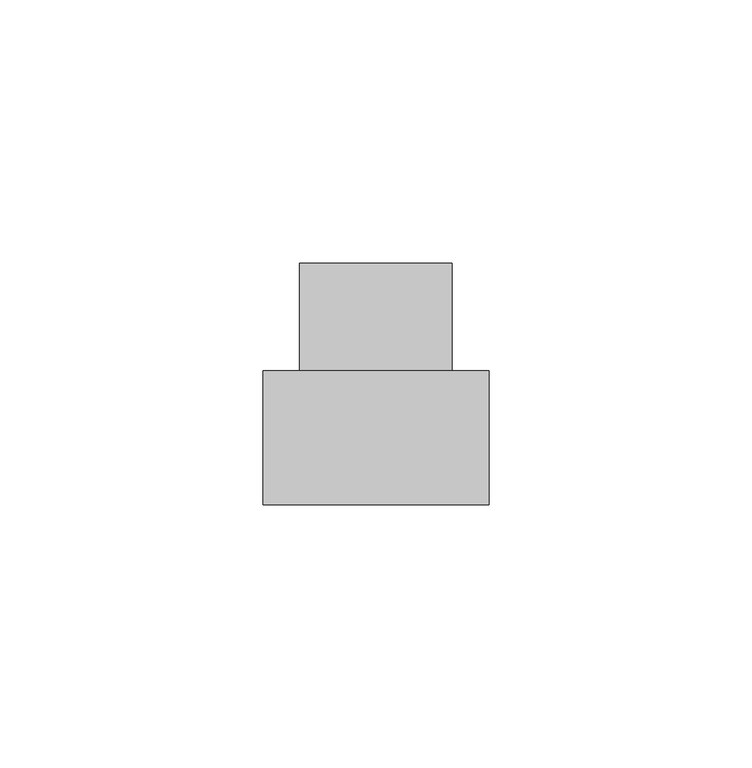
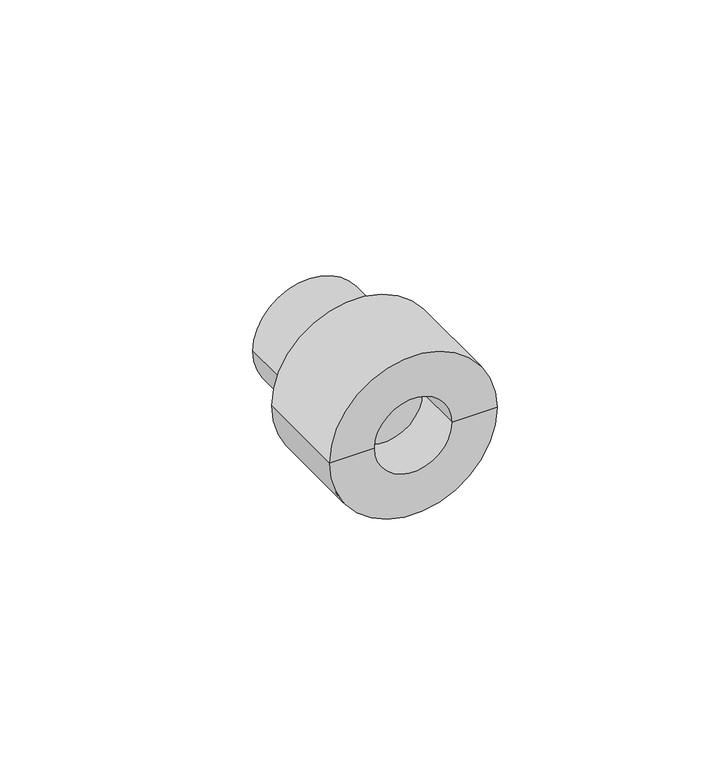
"""IFC4 building model written with IfcOpenShell, lengths in millimetres: pipe fitting geometry, NIRON RED termofusion roscado enlace rosca hembra : Estándar."""

import ifcopenshell
import ifcopenshell.guid

model = None  # the IFC model being written
_history = None  # IfcOwnerHistory: only IFC2X3 demands one
_inside = {}  # id of a spatial element -> (the spatial element, [elements in it])
_under = {}  # id of a project, library or spatial element -> (it, [spatial elements below it])
_declared = {}  # id of a project -> (the project, [libraries it declares])
_typed = {}  # id of a type object -> (the type object, [elements of that type])
_made_of = {}  # id of a material, layer set ... -> (it, [elements and type objects made of it])


def new_model(schema):
    """Start an empty IFC model of exactly this schema.

    Asked for "IFC4X3", IfcOpenShell would pick the latest addendum, in which some entities
    have other attributes; the version numbers below select the first issue.
    IFC2X3 requires an IfcOwnerHistory on every rooted entity: one is made here for all.
    """
    global model, _history
    if schema == "IFC4X3":
        model = ifcopenshell.file(schema_version=(4, 3, 0, 0))
    else:
        model = ifcopenshell.file(schema=schema)
    _inside.clear()
    _under.clear()
    _declared.clear()
    _typed.clear()
    _made_of.clear()
    _history = None
    if model.schema == "IFC2X3":
        org = make("IfcOrganization", Name="unknown")
        user = make(
            "IfcPersonAndOrganization",
            ThePerson=make("IfcPerson", FamilyName="unknown"),
            TheOrganization=org,
        )
        app = make(
            "IfcApplication",
            ApplicationDeveloper=org,
            Version="unknown",
            ApplicationFullName="unknown",
            ApplicationIdentifier="unknown",
        )
        _history = make(
            "IfcOwnerHistory",
            OwningUser=user,
            OwningApplication=app,
            ChangeAction="ADDED",
            CreationDate=0,
        )
    return model


def make(cls, **values):
    """One entity of the class cls with the attributes given. An attribute that is None is left unset."""
    return model.create_entity(
        cls, **{name: value for name, value in values.items() if value is not None}
    )


def rooted(cls, **values):
    """An entity with a GlobalId (a new one), such as an element, a storey or a relation."""
    return make(cls, GlobalId=ifcopenshell.guid.new(), OwnerHistory=_history, **values)


def si_unit(unit_type, name, prefix=None):
    """IfcSIUnit, for example si_unit("LENGTHUNIT", "METRE", prefix="MILLI")."""
    return make("IfcSIUnit", UnitType=unit_type, Prefix=prefix, Name=name)


def assignment(units):
    """IfcUnitAssignment: the units of a project."""
    return None if units is None else make("IfcUnitAssignment", Units=units)


def point(xyz):
    """IfcCartesianPoint."""
    return None if xyz is None else make("IfcCartesianPoint", Coordinates=xyz)


def direction(xyz):
    """IfcDirection."""
    return None if xyz is None else make("IfcDirection", DirectionRatios=xyz)


def frame(location, z_axis=None, x_axis=None):
    """IfcAxis2Placement3D, a coordinate frame: its origin and axes. An axis left out is left unset."""
    return make(
        "IfcAxis2Placement3D",
        Location=point(location),
        Axis=direction(z_axis),
        RefDirection=direction(x_axis),
    )


def origin():
    """The frame at (0, 0, 0) with its axes left unset."""
    return frame((0.0, 0.0, 0.0))


def place(relative_to, where):
    """IfcLocalPlacement: puts the frame where relative to a parent placement (None: the world)."""
    return make(
        "IfcLocalPlacement", PlacementRelTo=relative_to, RelativePlacement=where
    )


def context(
    kind, dimensions, precision=None, world=None, true_north=None, identifier=None
):
    """IfcGeometricRepresentationContext, for example the 3D "Model" context."""
    return make(
        "IfcGeometricRepresentationContext",
        ContextIdentifier=identifier,
        ContextType=kind,
        CoordinateSpaceDimension=dimensions,
        Precision=precision,
        WorldCoordinateSystem=world,
        TrueNorth=true_north,
    )


def project(units=None, contexts=None):
    """IfcProject with its units and contexts."""
    return rooted(
        "IfcProject",
        Name="project",
        RepresentationContexts=contexts,
        UnitsInContext=assignment(units),
    )


def spatial(cls, under=None, at=None, **own):
    """A site, building, storey or space (cls), placed at a placement, below another one or the project."""
    s = rooted(cls, ObjectPlacement=at, **own)
    if under is not None:
        _under.setdefault(under.id(), (under, []))[1].append(s)
    return s


def polyline(points):
    """IfcPolyline through the points."""
    return make("IfcPolyline", Points=[point(p) for p in points])


def circle_curve(where, radius):
    """IfcCircle in the frame where."""
    return make("IfcCircle", Position=where, Radius=radius)


def shape(context_of_items, identifier, shape_type, items):
    """IfcShapeRepresentation: the items that make up one representation, for example the "Body"."""
    return make(
        "IfcShapeRepresentation",
        ContextOfItems=context_of_items,
        RepresentationIdentifier=identifier,
        RepresentationType=shape_type,
        Items=items,
    )


def source(mapping_origin, context_of_items, identifier, shape_type, items):
    """IfcRepresentationMap: a shape defined once, which mapped items show again and again."""
    return make(
        "IfcRepresentationMap",
        MappingOrigin=mapping_origin,
        MappedRepresentation=shape(context_of_items, identifier, shape_type, items),
    )


def transform(
    local_origin,
    x_axis=None,
    y_axis=None,
    z_axis=None,
    scale=None,
    scale2=None,
    scale3=None,
    uniform=True,
):
    """IfcCartesianTransformationOperator3D, or its non-uniform kind. x_axis, y_axis, z_axis: its Axis1, 2, 3."""
    if uniform:
        return make(
            "IfcCartesianTransformationOperator3D",
            Axis1=direction(x_axis),
            Axis2=direction(y_axis),
            LocalOrigin=point(local_origin),
            Scale=scale,
            Axis3=direction(z_axis),
        )
    return make(
        "IfcCartesianTransformationOperator3DnonUniform",
        Axis1=direction(x_axis),
        Axis2=direction(y_axis),
        LocalOrigin=point(local_origin),
        Scale=scale,
        Axis3=direction(z_axis),
        Scale2=scale2,
        Scale3=scale3,
    )


def mapped(mapping_source, mapping_target):
    """IfcMappedItem: shows the shape of a source again, moved by a transform."""
    return make(
        "IfcMappedItem", MappingSource=mapping_source, MappingTarget=mapping_target
    )


def made_of(thing, what):
    """Note that an element or type object is made of a material, layer set ...; save() writes the relation."""
    if what is not None:
        _made_of.setdefault(what.id(), (what, []))[1].append(thing)
    return thing


def element(
    cls,
    number,
    at=None,
    inside=None,
    cuts=None,
    type_object=None,
    material=None,
    context=None,
    identifier="Body",
    shape_type=None,
    held_by="IfcProductDefinitionShape",
    body=None,
    shapes=None,
    **own,
):
    """One element of the class cls, such as IfcWall. Its Tag is "e" and its number.

    at: its placement. inside: the storey or other place that contains it. cuts: it is an
    opening in that element (IfcRelVoidsElement). A single representation is given by context,
    identifier, shape_type and body (its items); several are given by shapes. held_by: the class
    of the entity that holds the representations. save() writes the other relations.
    """
    e = rooted(cls, Tag="e%d" % number, ObjectPlacement=at, **own)
    if body is not None:
        shapes = [shape(context, identifier, shape_type, body)]
    if shapes is not None:
        e.Representation = make(held_by, Representations=shapes)
    if inside is not None:
        _inside.setdefault(inside.id(), (inside, []))[1].append(e)
    if cuts is not None:
        rooted(
            "IfcRelVoidsElement", RelatingBuildingElement=cuts, RelatedOpeningElement=e
        )
    if type_object is not None:
        _typed.setdefault(type_object.id(), (type_object, []))[1].append(e)
    return made_of(e, material)


def aggregate(whole, parts):
    """IfcRelAggregates: a whole, such as a stair, and the parts it consists of."""
    return rooted("IfcRelAggregates", RelatingObject=whole, RelatedObjects=parts)


def save(model, path):
    """Write the relations noted so far, then the file.

    IfcRelAggregates (storeys below a building ...), IfcRelContainedInSpatialStructure (elements
    in a storey), IfcRelDefinesByType, IfcRelAssociatesMaterial and IfcRelDeclares: one each for
    every whole, place, type object, material and project.
    """
    for whole, parts in _under.values():
        aggregate(whole, parts)
    for where, things in _inside.values():
        rooted(
            "IfcRelContainedInSpatialStructure",
            RelatedElements=things,
            RelatingStructure=where,
        )
    for kind, things in _typed.values():
        rooted("IfcRelDefinesByType", RelatedObjects=things, RelatingType=kind)
    for what, things in _made_of.values():
        rooted("IfcRelAssociatesMaterial", RelatedObjects=things, RelatingMaterial=what)
    for by, libraries in _declared.values():
        rooted("IfcRelDeclares", RelatingContext=by, RelatedDefinitions=libraries)
    model.write(path)


def plane_surface(at):
    """IfcPlane: the flat surface through the origin of the frame at, square to its z axis."""
    return make("IfcPlane", Position=at)


def cylinder_surface(at, radius):
    """IfcCylindricalSurface: all points at the distance radius from the z axis of the frame at."""
    return make("IfcCylindricalSurface", Position=at, Radius=radius)


def revolved_surface(curve, axis_point, axis_direction):
    """IfcSurfaceOfRevolution: the curve turned about the line through axis_point along axis_direction."""
    return make(
        "IfcSurfaceOfRevolution",
        SweptCurve=make("IfcArbitraryOpenProfileDef", ProfileType="CURVE", Curve=curve),
        AxisPosition=make("IfcAxis1Placement", Location=point(axis_point), Axis=direction(axis_direction)),
    )


def advanced_brep(points, edges, surfaces, faces):
    """IfcAdvancedBrep: a solid bounded by faces that lie on surfaces and meet in shared edges.

    An edge is (start, end): straight between two places in points (the first is 0);
    or (start, end, curve); or (start, end, curve, False) where it runs against its curve.
    A face is (place in surfaces, loops), or (place, loops, False) where it looks against
    its surface's normal. A loop lists edges by number (the first is 1), with a minus sign
    where the edge is run from its end to its start. The first loop is the outer one.
    """
    corners = [point(p) for p in points]
    vertices = [make("IfcVertexPoint", VertexGeometry=c) for c in corners]
    made = []
    for start, end, *more in edges:
        made.append(
            make(
                "IfcEdgeCurve",
                EdgeStart=vertices[start],
                EdgeEnd=vertices[end],
                EdgeGeometry=more[0] if more else make("IfcPolyline", Points=[corners[start], corners[end]]),
                SameSense=more[1] if len(more) > 1 else True,
            )
        )
    hull = []
    for where, loops, *sense in faces:
        bounds = []
        for j, loop in enumerate(loops):
            ring = [make("IfcOrientedEdge", EdgeElement=made[abs(k) - 1], Orientation=k > 0) for k in loop]
            bounds.append(
                make(
                    "IfcFaceOuterBound" if j == 0 else "IfcFaceBound",
                    Bound=make("IfcEdgeLoop", EdgeList=ring),
                    Orientation=True,
                )
            )
        hull.append(make("IfcAdvancedFace", Bounds=bounds, FaceSurface=surfaces[where], SameSense=sense[0] if sense else True))
    return make("IfcAdvancedBrep", Outer=make("IfcClosedShell", CfsFaces=hull))


def pipe_fitting_1d4efdb7(model_context):
    return source(origin(), model_context, "Body", "AdvancedBrep", [
        advanced_brep(
        [(14.5, 46.0, 0.0), (-14.5, 46.0, 0.0), (0.0, 46.0, 0.0), (21.5, 0.0, 0.0), (-21.5, 0.0, 0.0), (-21.5, 25.5, 0.0), (21.5, 25.5, 0.0), (10.0, 0.0, 0.0), (-10.0, 0.0, 0.0), (14.5, 25.5, 0.0), (-14.5, 25.5, 0.0), (-10.0, 13.2, 0.0), (10.0, 13.2, 0.0)],
        [
            (0, 1, circle_curve(frame((0.0, 46.0, 0.0), z_axis=(0.0, 1.0, 0.0), x_axis=(-1.0, 0.0, 0.0)), 14.5)),
            (1, 2),
            (2, 0),
            (1, 0, circle_curve(frame((0.0, 46.0, 0.0), z_axis=(0.0, 1.0, 0.0), x_axis=(-1.0, 0.0, 0.0)), 14.5)),
            (3, 4, circle_curve(frame((0.0, 0.0, 0.0), z_axis=(0.0, 1.0, 0.0), x_axis=(-1.0, 0.0, 0.0)), 21.5)),
            (4, 5),
            (5, 6, circle_curve(frame((0.0, 25.5, 0.0), z_axis=(0.0, -1.0, 0.0), x_axis=(-1.0, 0.0, 0.0)), 21.5)),
            (6, 3),
            (4, 3, circle_curve(frame((0.0, 0.0, 0.0), z_axis=(0.0, 1.0, 0.0), x_axis=(-1.0, 0.0, 0.0)), 21.5)),
            (6, 5, circle_curve(frame((0.0, 25.5, 0.0), z_axis=(0.0, -1.0, 0.0), x_axis=(-1.0, 0.0, 0.0)), 21.5)),
            (3, 7),
            (7, 8, circle_curve(frame((0.0, 0.0, 0.0), z_axis=(0.0, 1.0, 0.0), x_axis=(1.0, 0.0, 0.0)), 10.0)),
            (8, 4),
            (8, 7, circle_curve(frame((0.0, 0.0, 0.0), z_axis=(0.0, 1.0, 0.0), x_axis=(1.0, 0.0, 0.0)), 10.0)),
            (0, 9),
            (9, 10, circle_curve(frame((0.0, 25.5, 0.0), z_axis=(0.0, 1.0, 0.0), x_axis=(-1.0, 0.0, 0.0)), 14.5)),
            (10, 1),
            (10, 9, circle_curve(frame((0.0, 25.5, 0.0), z_axis=(0.0, 1.0, 0.0), x_axis=(-1.0, 0.0, 0.0)), 14.5)),
            (5, 10),
            (9, 6),
            (11, 12, circle_curve(frame((0.0, 13.2, 0.0), z_axis=(0.0, -1.0, 0.0), x_axis=(1.0, 0.0, 0.0)), 10.0)),
            (12, 11, circle_curve(frame((0.0, 13.2, 0.0), z_axis=(0.0, -1.0, 0.0), x_axis=(1.0, 0.0, 0.0)), 10.0)),
            (11, 8),
            (7, 12),
        ],
        [
            plane_surface(frame((0.0, 46.0, 0.0), z_axis=(0.0, 1.0, 0.0), x_axis=(-1.0, 0.0, 0.0))),
            cylinder_surface(frame((0.0, 56.0, 0.0), z_axis=(0.0, -1.0, 0.0), x_axis=(-1.0, 0.0, 0.0)), 21.5),
            plane_surface(frame((0.0, 0.0, 0.0), z_axis=(0.0, -1.0, 0.0), x_axis=(-1.0, 0.0, 0.0))),
            cylinder_surface(frame((0.0, 56.0, 0.0), z_axis=(0.0, -1.0, 0.0), x_axis=(-1.0, 0.0, 0.0)), 14.5),
            plane_surface(frame((0.0, 25.5, 0.0), z_axis=(0.0, 1.0, 0.0), x_axis=(-1.0, 0.0, 0.0))),
            plane_surface(frame((10.0, 13.2, 0.0), z_axis=(0.0, -1.0, 0.0), x_axis=(0.0, 0.0, -1.0))),
            revolved_surface(polyline([(10.0, 0.0, 0.0), (10.0, 13.2, 0.0)]), (0.0, 13.2, 0.0), (0.0, -1.0, 0.0)),
        ],
        [
            (0, [[1, 2, 3]]),
            (0, [[-2, 4, -3]]),
            (1, [[5, 6, 7, 8]]),
            (1, [[-6, 9, -8, 10]]),
            (2, [[-5, 11, 12, 13]]),
            (2, [[-9, -13, 14, -11]]),
            (3, [[-1, 15, 16, 17]]),
            (3, [[-4, -17, 18, -15]]),
            (4, [[-7, 19, -16, 20]]),
            (4, [[-10, -20, -18, -19]]),
            (5, [[21, 22]]),
            (6, [[-21, 23, -12, 24]]),
            (6, [[-22, -24, -14, -23]]),
        ],
    ),
    ])


if __name__ == "__main__":
    model = new_model("IFC4")
    model_context = context("Model", 3, world=origin())
    ifc_project = project(units=[si_unit("LENGTHUNIT", "METRE", prefix="MILLI")], contexts=[model_context])
    site = spatial("IfcSite", under=ifc_project)
    building = spatial("IfcBuilding", under=site)
    placement = place(None, origin())
    pipe_fitting_shape = pipe_fitting_1d4efdb7(model_context)
    element("IfcPipeFitting", 1, ObjectType="NIRON RED termofusion roscado enlace rosca hembra : Estándar", at=placement, inside=building, context=model_context, shape_type="MappedRepresentation", body=[
        mapped(pipe_fitting_shape, transform((0.0, 0.0, 0.0), x_axis=(1.0, 0.0, 0.0), y_axis=(0.0, 1.0, 0.0), z_axis=(0.0, 0.0, 1.0))),
    ])
    save(model, "model.ifc")
